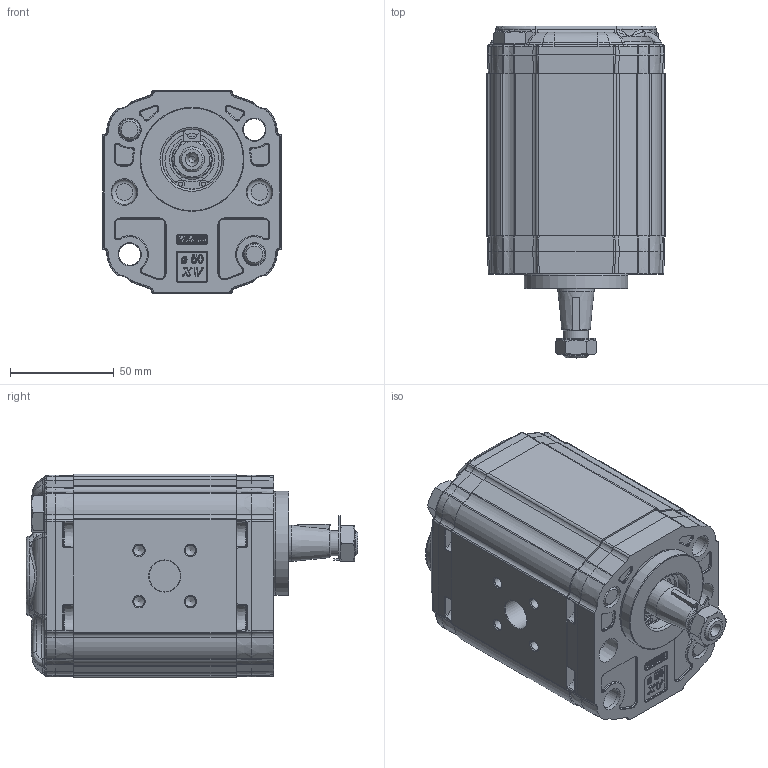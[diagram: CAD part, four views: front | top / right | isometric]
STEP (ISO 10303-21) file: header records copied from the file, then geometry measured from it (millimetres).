
FILE_DESCRIPTION(/* description */ ('Unknown'),/* implementation_level */ '2;1');
FILE_NAME(/* name */ 'X2P5511FSRA',/* time_stamp */ '2026-06-03T17:42:20+02:00',/* author */ ('Unknown'),/* organization */ ('Unknown'),/* preprocessor_version */ 'ST-DEVELOPER v16.7',/* originating_system */ 'Solid Edge',/* authorisation */ 'Unknown');
FILE_SCHEMA (('AUTOMOTIVE_DESIGN {1 0 10303 214 3 1 1}'));
Products named in the file (5): X2P5511FSRA; X2P11; 2F; X2SRH78; XP210-A
Assembly tree (4 placements, depth 2):
  X2P5511FSRA
    X2P11
    2F
    X2SRH78
    XP210-A
Bounding box: 86 x 159.65 x 98 mm (x, y, z)
Volume: 838193.3 mm3; surface area: 113493.3 mm2
Topology: 4 solids, 8 shells, 2649 faces, 6473 edges, 3906 vertices
Faces by surface type: cylinder 753, bspline 670, plane 650, cone 299, torus 213, sphere 64
Full cylindrical faces by diameter (mm): 2 x2, 5 x8, 10 x6, 10.5 x8, 11 x2, 12 x2, 12.5 x1, 15 x1, 16 x2, 17.42 x1, 17.48 x2, 18.724 x1, 20 x1, 20.595 x1, 21.741 x1, 25 x1, 25.834 x1, 28.56 x1, 28.57 x1, 28.8 x1, 30.5 x1, 50 x1
Entity records: 123816 total; most frequent: CARTESIAN_POINT 48973, ORIENTED_EDGE 12446, DIRECTION 10204, EDGE_CURVE 6223, AXIS2_PLACEMENT_3D 4029, VERTEX_POINT 3848, FACE_BOUND 2931, EDGE_LOOP 2921
